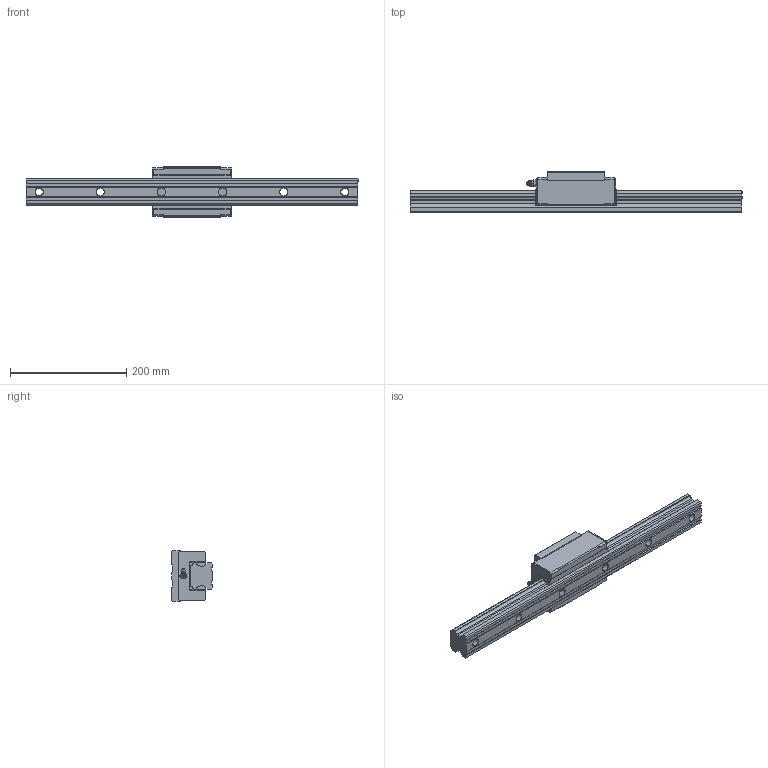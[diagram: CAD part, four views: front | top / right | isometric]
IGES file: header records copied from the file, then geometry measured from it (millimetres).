
Start section: SolidWorks IGES file using analytic representation for surfaces
Global section: file name: D:\Qsync\EOS Design B.V\Projecten\LM Systems\Models HSV\FINISHED\HSV45RSS.IGS; native system: SolidWorks 2016; preprocessor: SolidWorks 2016; author: EOS; date: 160314.144951; units: millimetre
Bounding box: 570 x 70 x 86 mm (x, y, z)
Surface area: 169171.3 mm2 (no closed solid volume)
Topology: 0 solids, 0 shells, 260 faces, 2957 edges, 2943 vertices
Faces by surface type: bspline 178, revolution 82
